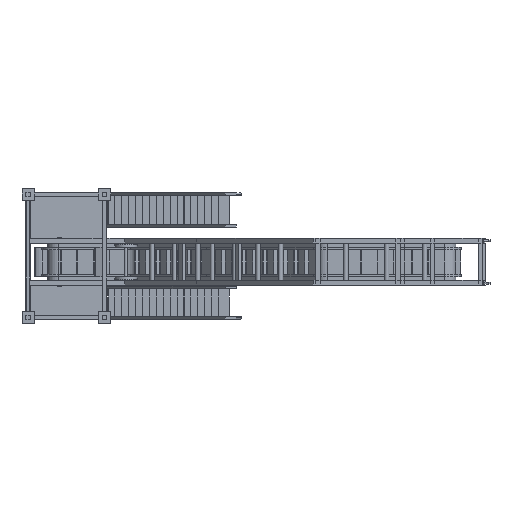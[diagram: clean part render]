
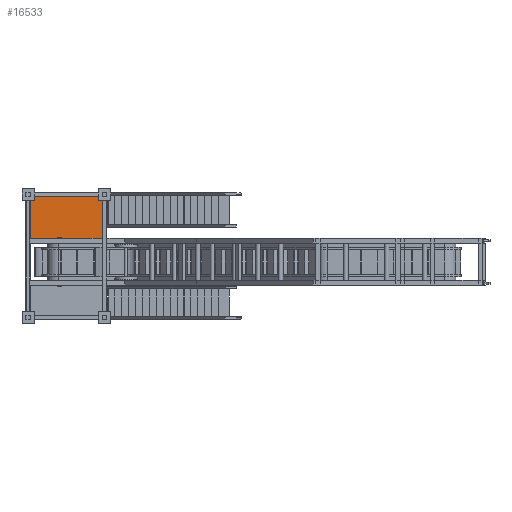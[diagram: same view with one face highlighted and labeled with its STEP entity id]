
A CAD part, front view. The second image highlights one B-rep face of the part: STEP entity #16533.
In plain terms, the highlighted planar face has unit normal (0, -1, 0).
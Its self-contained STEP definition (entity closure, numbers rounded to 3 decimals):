
#14308=PLANE('',#62021);
#16533=ADVANCED_FACE('',(#19313),#14308,.F.);
#19313=FACE_OUTER_BOUND('',#21852,.T.);
#21852=EDGE_LOOP('',(#42339,#42340,#42341,#42342,#42343,#42344,#42345,#42346));
#26179=LINE('',#86913,#31573);
#26185=LINE('',#86925,#31579);
#26264=LINE('',#87101,#31658);
#26265=LINE('',#87103,#31659);
#26266=LINE('',#87105,#31660);
#26267=LINE('',#87106,#31661);
#26268=LINE('',#87108,#31662);
#26269=LINE('',#87110,#31663);
#31573=VECTOR('',#69873,1.);
#31579=VECTOR('',#69887,1.);
#31658=VECTOR('',#70076,1.);
#31659=VECTOR('',#70077,1.);
#31660=VECTOR('',#70078,1.);
#31661=VECTOR('',#70079,1.);
#31662=VECTOR('',#70080,1.);
#31663=VECTOR('',#70081,1.);
#42339=ORIENTED_EDGE('',*,*,#56768,.F.);
#42340=ORIENTED_EDGE('',*,*,#56861,.T.);
#42341=ORIENTED_EDGE('',*,*,#56862,.T.);
#42342=ORIENTED_EDGE('',*,*,#56863,.T.);
#42343=ORIENTED_EDGE('',*,*,#56774,.F.);
#42344=ORIENTED_EDGE('',*,*,#56864,.F.);
#42345=ORIENTED_EDGE('',*,*,#56865,.F.);
#42346=ORIENTED_EDGE('',*,*,#56866,.F.);
#50210=VERTEX_POINT('',#85436);
#50213=VERTEX_POINT('',#85444);
#50645=VERTEX_POINT('',#86684);
#50699=VERTEX_POINT('',#86922);
#50742=VERTEX_POINT('',#87102);
#50743=VERTEX_POINT('',#87104);
#50744=VERTEX_POINT('',#87107);
#50745=VERTEX_POINT('',#87109);
#56768=EDGE_CURVE('',#50645,#50210,#26179,.T.);
#56774=EDGE_CURVE('',#50213,#50699,#26185,.T.);
#56861=EDGE_CURVE('',#50645,#50742,#26264,.T.);
#56862=EDGE_CURVE('',#50742,#50743,#26265,.T.);
#56863=EDGE_CURVE('',#50743,#50699,#26266,.T.);
#56864=EDGE_CURVE('',#50744,#50213,#26267,.T.);
#56865=EDGE_CURVE('',#50745,#50744,#26268,.T.);
#56866=EDGE_CURVE('',#50210,#50745,#26269,.T.);
#62021=AXIS2_PLACEMENT_3D('',#87111,#70082,#70083);
#69873=DIRECTION('',(-1.,0.,0.));
#69887=DIRECTION('',(-1.,0.,0.));
#70076=DIRECTION('',(0.,0.,1.));
#70077=DIRECTION('',(1.,0.,0.));
#70078=DIRECTION('',(0.,0.,-1.));
#70079=DIRECTION('',(0.,0.,-1.));
#70080=DIRECTION('',(1.,0.,0.));
#70081=DIRECTION('',(0.,0.,1.));
#70082=DIRECTION('',(0.,1.,0.));
#70083=DIRECTION('',(0.,0.,-1.));
#85436=CARTESIAN_POINT('',(-10746.179,8220.138,810.));
#85444=CARTESIAN_POINT('',(-8993.021,8220.138,810.));
#86684=CARTESIAN_POINT('',(-10660.355,8220.138,810.));
#86913=CARTESIAN_POINT('',(-3972.142,8220.138,810.));
#86922=CARTESIAN_POINT('',(-9074.482,8220.138,810.));
#86925=CARTESIAN_POINT('',(-9090.955,8220.138,810.));
#87101=CARTESIAN_POINT('',(-10660.355,8220.138,-83.82));
#87102=CARTESIAN_POINT('',(-10660.355,8220.138,861.531));
#87103=CARTESIAN_POINT('',(-10660.355,8220.138,861.531));
#87104=CARTESIAN_POINT('',(-9074.482,8220.138,861.531));
#87105=CARTESIAN_POINT('',(-9074.482,8220.138,-83.82));
#87106=CARTESIAN_POINT('',(-8993.021,8220.138,-847.743));
#87107=CARTESIAN_POINT('',(-8993.021,8220.138,1908.384));
#87108=CARTESIAN_POINT('',(-10746.179,8220.138,1908.384));
#87109=CARTESIAN_POINT('',(-10746.179,8220.138,1908.384));
#87110=CARTESIAN_POINT('',(-10746.179,8220.138,-847.743));
#87111=CARTESIAN_POINT('',(-10746.179,8220.138,1908.384));
